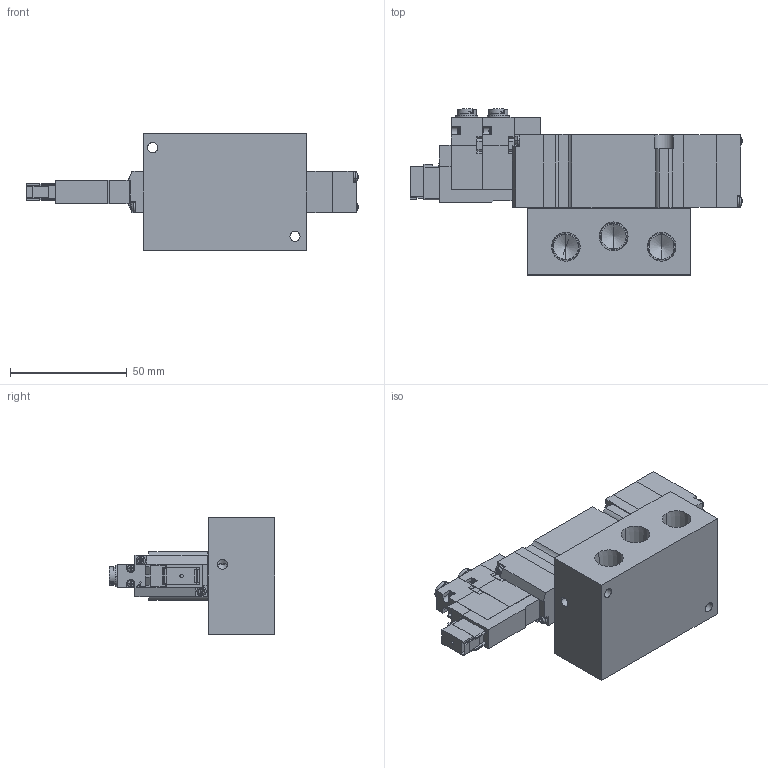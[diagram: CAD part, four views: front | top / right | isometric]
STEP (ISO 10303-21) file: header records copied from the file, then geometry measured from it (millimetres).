
FILE_DESCRIPTION (( 'STEP AP203' ), '1' );
FILE_NAME ('A20GD(E¡BO)35#-#-#-E.STEP', '2016-02-04T02:43:05', ( 'Sam Lin' ), ( '' ), 'SwSTEP 2.0', 'SolidWorks 2013', '' );
FILE_SCHEMA (( 'CONFIG_CONTROL_DESIGN' ));
Length unit declared in the file: metre
Products named in the file (19): DC24-A05F-1; ISO 7045 - M2.5 x 8-D4; DC24-A05G-2; A20P-3; DC24-A05G-3; mark-ADEX-A20; DC24-A05F-2; A05RS25-3; A20G-1; A05RS25-4; A20G-3; ISO 7045 - M1.6 x 10; A20P底座; A20G-4; A05RS25-5; A20P-1; A20GD(E、O)35#-#-#-E; A05RS25-6; A20P-2
Assembly tree (30 placements, depth 2):
  A20GD(E、O)35#-#-#-E
    A20P底座
    A20P-1
    A20P-2
    ISO 7045 - M2.5 x 8-D4  x4
    A20P-3
    mark-ADEX-A20
    A05RS25-3  x2
    A05RS25-4  x2
    ISO 7045 - M1.6 x 10  x4
    A05RS25-5  x2
    A05RS25-6  x4
    DC24-A05F-1
    DC24-A05G-2
    DC24-A05G-3
    DC24-A05F-2
    A20G-1
    A20G-3
    A20G-4
Bounding box: 142.3 x 71.1 x 50 mm (x, y, z)
Volume: 155224.5 mm3; surface area: 44917.6 mm2
Topology: 38 solids, 38 shells, 929 faces, 2375 edges, 1519 vertices
Faces by surface type: plane 602, cylinder 171, cone 96, bspline 60
Entity records: 20478 total; most frequent: CARTESIAN_POINT 4962, ORIENTED_EDGE 2736, DIRECTION 2694, EDGE_CURVE 1368, VECTOR 964, LINE 964, VERTEX_POINT 900, AXIS2_PLACEMENT_3D 865
